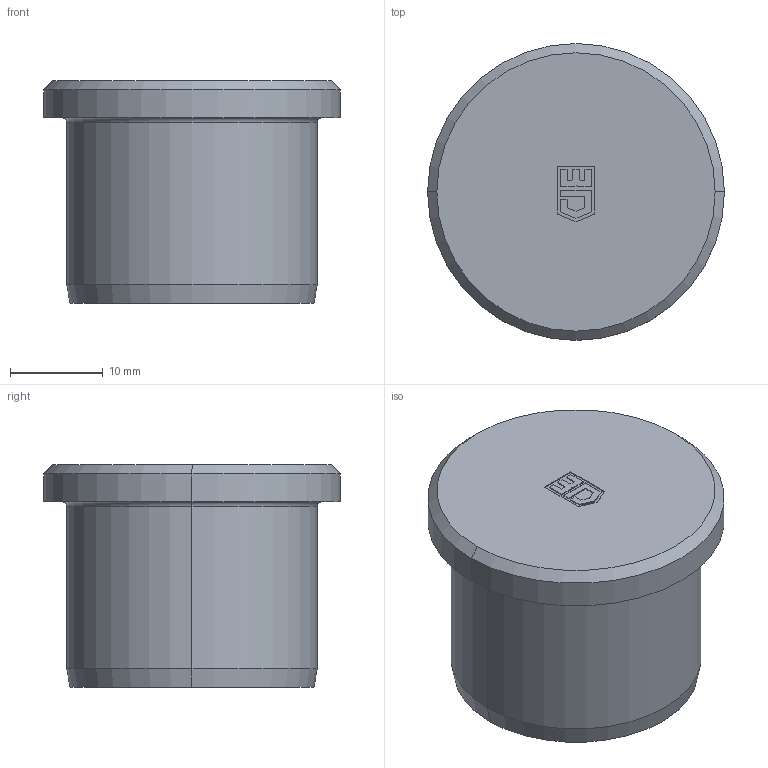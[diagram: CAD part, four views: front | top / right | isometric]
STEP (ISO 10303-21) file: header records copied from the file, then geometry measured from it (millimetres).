
FILE_DESCRIPTION (( 'STEP AP203' ), '1' );
FILE_NAME ('WJ-DM 40-VPA.STEP', '2006-08-16T06:46:12', ( ' ' ), ( '' ), 'SwSTEP 2.0', 'SolidWorks 2005278', '' );
FILE_SCHEMA (( 'CONFIG_CONTROL_DESIGN' ));
Length unit declared in the file: millimetre
Products named in the file (1): WJ-DM 40-VPA
Bounding box: 32 x 32 x 24 mm (x, y, z)
Volume: 10571.4 mm3; surface area: 4439 mm2
Topology: 1 solids, 1 shells, 54 faces, 136 edges, 87 vertices
Faces by surface type: plane 40, cone 6, cylinder 6, torus 2
Entity records: 1659 total; most frequent: CARTESIAN_POINT 276, ORIENTED_EDGE 268, DIRECTION 264, EDGE_CURVE 134, VECTOR 114, LINE 114, VERTEX_POINT 87, AXIS2_PLACEMENT_3D 75
